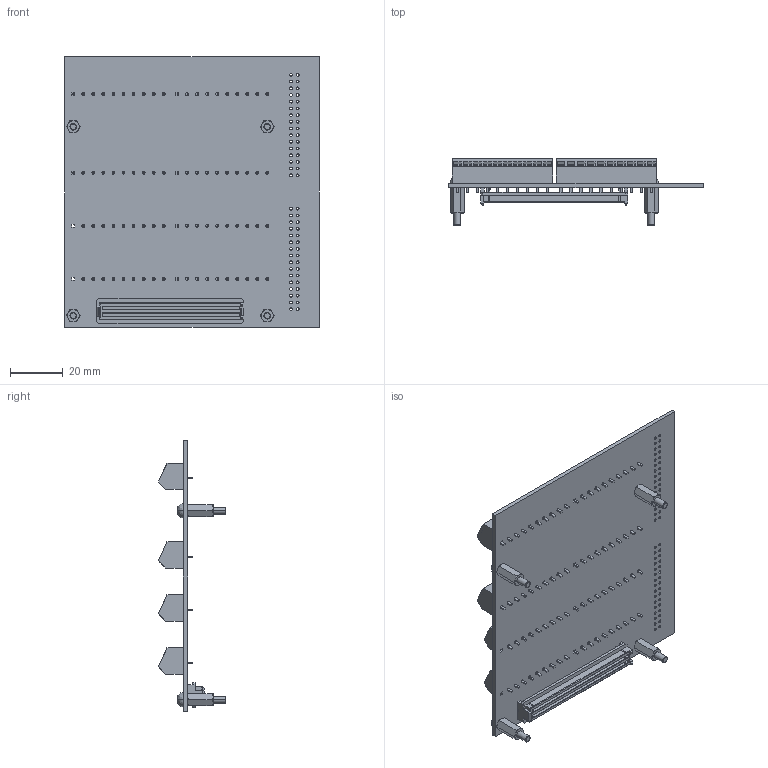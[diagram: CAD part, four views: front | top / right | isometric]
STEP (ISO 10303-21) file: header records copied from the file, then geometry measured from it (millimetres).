
FILE_DESCRIPTION((''),'2;1');
FILE_NAME('CU_CRIO-9694_06-07-2013','2013-06-07T',('jbuhisan'),(''),'PRO/ENGINEER BY PARAMETRIC TECHNOLOGY CORPORATION, 2011490','PRO/ENGINEER BY PARAMETRIC TECHNOLOGY CORPORATION, 2011490','');
FILE_SCHEMA(('CONFIG_CONTROL_DESIGN'));
Products named in the file (1): CU_CRIO-9694_06-07-2013
Bounding box: 96.52 x 25.5 x 102.87 mm (x, y, z)
Volume: 40282 mm3; surface area: 32097.5 mm2
Topology: 1 solids, 1 shells, 2140 faces, 5185 edges, 3363 vertices
Faces by surface type: plane 1512, cylinder 510, cone 72, bspline 28, sphere 18
Entity records: 64850 total; most frequent: CARTESIAN_POINT 13707, DIRECTION 10358, ORIENTED_EDGE 10334, EDGE_CURVE 5167, VECTOR 3818, LINE 3818, VERTEX_POINT 3439, AXIS2_PLACEMENT_3D 3270
